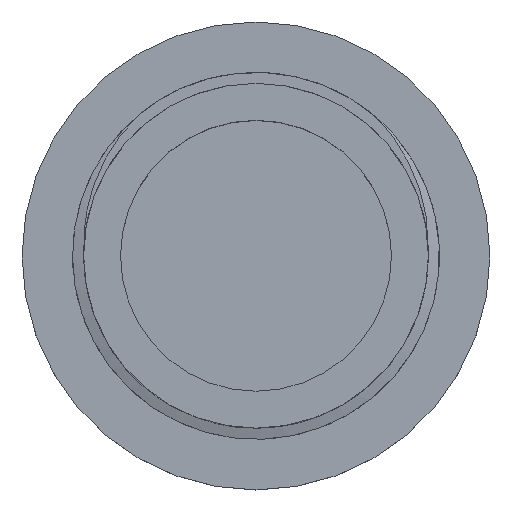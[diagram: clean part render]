
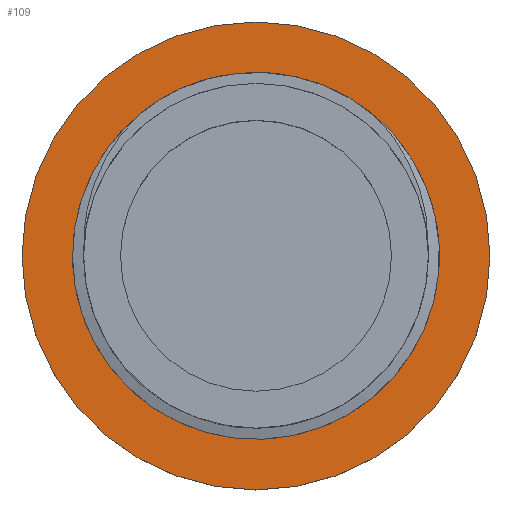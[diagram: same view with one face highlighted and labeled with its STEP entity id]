
A CAD part, top view. The second image highlights one B-rep face of the part: STEP entity #109.
In plain terms, the highlighted planar face has unit normal (0, 0, 1).
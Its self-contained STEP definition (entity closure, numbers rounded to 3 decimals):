
#24 = VERTEX_POINT('',#25);
#25 = CARTESIAN_POINT('',(19.,0.,3.));
#32 = CYLINDRICAL_SURFACE('',#33,19.);
#33 = AXIS2_PLACEMENT_3D('',#34,#35,#36);
#34 = CARTESIAN_POINT('',(0.,0.,0.));
#35 = DIRECTION('',(-0.,-0.,-1.));
#36 = DIRECTION('',(1.,0.,0.));
#51 = EDGE_CURVE('',#24,#24,#52,.T.);
#52 = SURFACE_CURVE('',#53,(#58,#65),.PCURVE_S1.);
#53 = CIRCLE('',#54,19.);
#54 = AXIS2_PLACEMENT_3D('',#55,#56,#57);
#55 = CARTESIAN_POINT('',(0.,0.,3.));
#56 = DIRECTION('',(0.,0.,1.));
#57 = DIRECTION('',(1.,0.,0.));
#58 = PCURVE('',#32,#59);
#59 = DEFINITIONAL_REPRESENTATION('',(#60),#64);
#60 = LINE('',#61,#62);
#61 = CARTESIAN_POINT('',(-0.,-3.));
#62 = VECTOR('',#63,1.);
#63 = DIRECTION('',(-1.,0.));
#64 = ( GEOMETRIC_REPRESENTATION_CONTEXT(2) 
PARAMETRIC_REPRESENTATION_CONTEXT() REPRESENTATION_CONTEXT('2D SPACE',''
  ) );
#65 = PCURVE('',#66,#71);
#66 = PLANE('',#67);
#67 = AXIS2_PLACEMENT_3D('',#68,#69,#70);
#68 = CARTESIAN_POINT('',(0.,0.,3.));
#69 = DIRECTION('',(0.,0.,1.));
#70 = DIRECTION('',(1.,0.,-0.));
#71 = DEFINITIONAL_REPRESENTATION('',(#72),#76);
#72 = CIRCLE('',#73,19.);
#73 = AXIS2_PLACEMENT_2D('',#74,#75);
#74 = CARTESIAN_POINT('',(0.,0.));
#75 = DIRECTION('',(1.,0.));
#76 = ( GEOMETRIC_REPRESENTATION_CONTEXT(2) 
PARAMETRIC_REPRESENTATION_CONTEXT() REPRESENTATION_CONTEXT('2D SPACE',''
  ) );
#109 = ADVANCED_FACE('',(#110,#113),#66,.T.);
#110 = FACE_BOUND('',#111,.T.);
#111 = EDGE_LOOP('',(#112));
#112 = ORIENTED_EDGE('',*,*,#51,.T.);
#113 = FACE_BOUND('',#114,.T.);
#114 = EDGE_LOOP('',(#115));
#115 = ORIENTED_EDGE('',*,*,#116,.F.);
#116 = EDGE_CURVE('',#117,#117,#119,.T.);
#117 = VERTEX_POINT('',#118);
#118 = CARTESIAN_POINT('',(14.,0.,3.));
#119 = SURFACE_CURVE('',#120,(#125,#132),.PCURVE_S1.);
#120 = CIRCLE('',#121,14.);
#121 = AXIS2_PLACEMENT_3D('',#122,#123,#124);
#122 = CARTESIAN_POINT('',(0.,0.,3.));
#123 = DIRECTION('',(0.,0.,1.));
#124 = DIRECTION('',(1.,0.,0.));
#125 = PCURVE('',#66,#126);
#126 = DEFINITIONAL_REPRESENTATION('',(#127),#131);
#127 = CIRCLE('',#128,14.);
#128 = AXIS2_PLACEMENT_2D('',#129,#130);
#129 = CARTESIAN_POINT('',(0.,0.));
#130 = DIRECTION('',(1.,0.));
#131 = ( GEOMETRIC_REPRESENTATION_CONTEXT(2) 
PARAMETRIC_REPRESENTATION_CONTEXT() REPRESENTATION_CONTEXT('2D SPACE',''
  ) );
#132 = PCURVE('',#133,#138);
#133 = CYLINDRICAL_SURFACE('',#134,14.);
#134 = AXIS2_PLACEMENT_3D('',#135,#136,#137);
#135 = CARTESIAN_POINT('',(0.,0.,3.));
#136 = DIRECTION('',(-0.,-0.,-1.));
#137 = DIRECTION('',(1.,0.,0.));
#138 = DEFINITIONAL_REPRESENTATION('',(#139),#143);
#139 = LINE('',#140,#141);
#140 = CARTESIAN_POINT('',(-0.,0.));
#141 = VECTOR('',#142,1.);
#142 = DIRECTION('',(-1.,0.));
#143 = ( GEOMETRIC_REPRESENTATION_CONTEXT(2) 
PARAMETRIC_REPRESENTATION_CONTEXT() REPRESENTATION_CONTEXT('2D SPACE',''
  ) );
